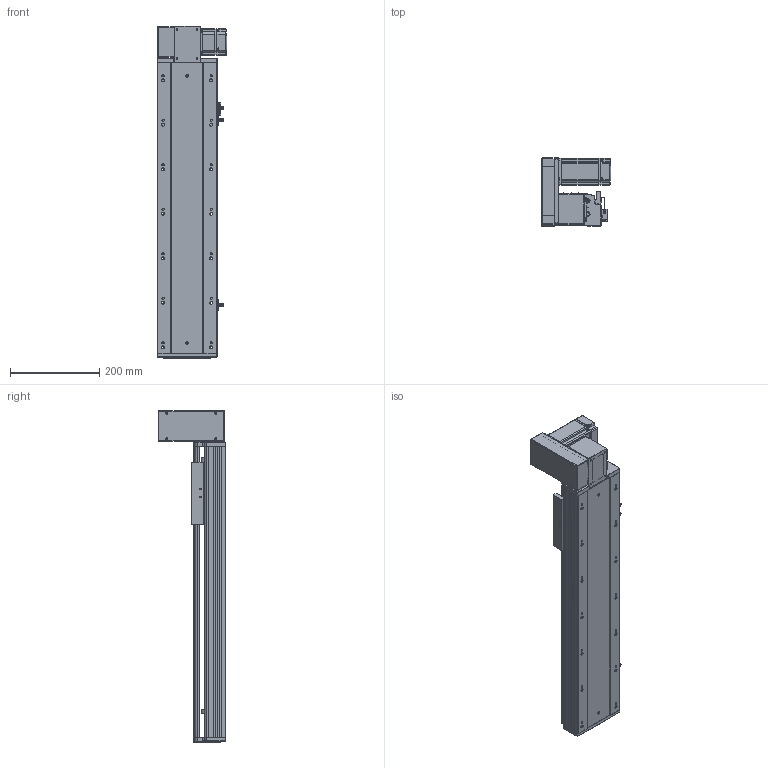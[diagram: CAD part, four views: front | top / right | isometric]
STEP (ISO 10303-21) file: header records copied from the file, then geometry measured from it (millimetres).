
FILE_DESCRIPTION (( 'STEP AP203' ), '1' );
FILE_NAME ('RY140-T-300-UL.SLDASM_400.step', '2021-03-01T07:42:59', ( '盈信电脑' ), ( '东莞市道滘镇水果街19号' ), 'SwSTEP 2.0', 'SolidWorks 2012', '' );
FILE_SCHEMA (( 'CONFIG_CONTROL_DESIGN' ));
Products named in the file (18): 滅袉蝶18-10; RY140-T翋肮謫裔啣; RY140-T-300-UL.SLDASM_400; RY140-T萇儂欶; RY120-T主同步轮轴承压盖; RY120-T蹟翐M4; 侂狟400W侜督萇儂; RY140-T萇儂假蚾啣; 15; RY140-T翋肮祭謫盓傅釱; 覜茼ん672; RY120-T肮祭湍揤踡輸1; RY120-T肮祭湍揤踡輸2; RY120外置感应片(140共用）; RY140-T-300-DL倰第菁釱_400; RY140肮祭謫臏賑輸; RY140-T-300-DL倰第奻裔啣_400; RY140綴裔啣
Assembly tree (23 placements, depth 3):
  RY140-T-300-UL.SLDASM_400
    RY140-T-300-DL倰第菁釱_400
    RY140肮祭謫臏賑輸
    RY140-T-300-DL倰第奻裔啣_400
    RY140綴裔啣
    覜茼ん672  x3
    RY120外置感应片(140共用）
    RY120-T肮祭湍揤踡輸2
    RY120-T肮祭湍揤踡輸1
    RY140-T翋肮祭謫盓傅釱
    RY140-T萇儂假蚾啣
    侂狟400W侜督萇儂
      15
    RY120-T主同步轮轴承压盖
    RY120-T蹟翐M4  x4
    RY140-T萇儂欶
    滅袉蝶18-10  x2
    RY140-T翋肮謫裔啣
Bounding box: 157 x 152.5 x 746 mm (x, y, z)
Volume: 2558648.1 mm3; surface area: 938682.5 mm2
Topology: 22 solids, 22 shells, 2587 faces, 7089 edges, 4576 vertices
Faces by surface type: plane 1385, cylinder 924, cone 178, bspline 100
Entity records: 82123 total; most frequent: CARTESIAN_POINT 20173, ORIENTED_EDGE 12746, DIRECTION 12037, EDGE_CURVE 6373, VERTEX_POINT 4175, VECTOR 4117, LINE 4117, AXIS2_PLACEMENT_3D 3960
